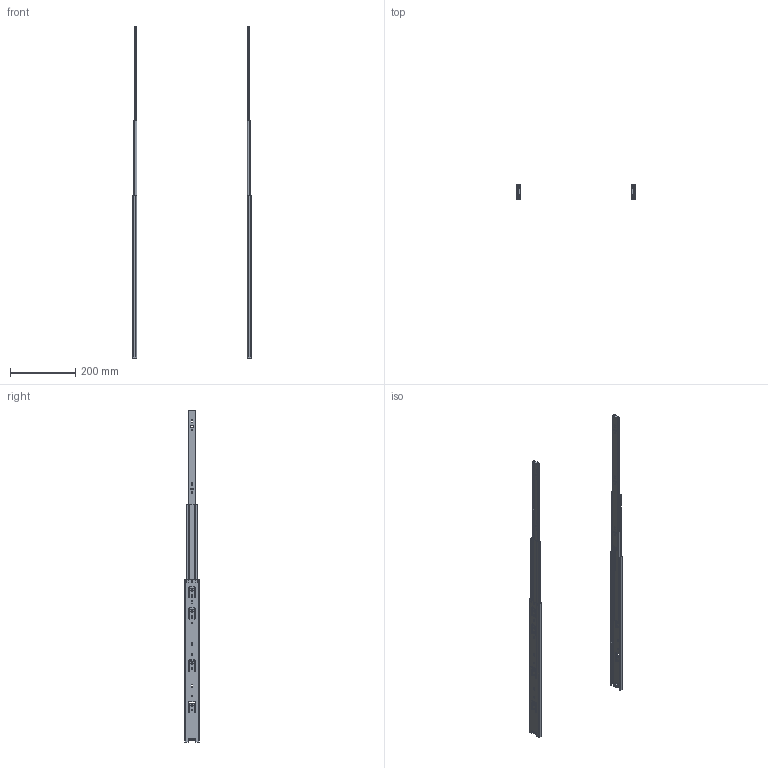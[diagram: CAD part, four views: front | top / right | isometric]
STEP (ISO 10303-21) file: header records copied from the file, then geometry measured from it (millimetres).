
FILE_DESCRIPTION(/* description */ (''),/* implementation_level */ '2;1');
FILE_NAME(/* name */ 'D:\$Workingspace\Designs\Katalog\Cadsoft\GTV Prowadnice\Prowadnice GTV_bryły 3D\PK-0-H45-500_wysunieta.stp',/* time_stamp */ '2016-11-22T11:28:07+01:00',/* author */ ('tomaszw'),/* organization */ (''),/* preprocessor_version */ 'ST-DEVELOPER v16.1',/* originating_system */ 'Autodesk Inventor 2016',/* authorisation */ '');
FILE_SCHEMA (('AUTOMOTIVE_DESIGN { 1 0 10303 214 3 1 1 }'));
Length unit declared in the file: millimetre
Products named in the file (5): Blokada_4; PK-0-H45_1-500; PK-0-H45_2-500; PK-0-H45_3-500; PK-0-H45
Assembly tree (8 placements, depth 2):
  PK-0-H45
    Blokada_4  x2
    PK-0-H45_1-500  x2
    PK-0-H45_2-500  x2
    PK-0-H45_3-500  x2
Bounding box: 364 x 44.5 x 1020 mm (x, y, z)
Volume: 159345.8 mm3; surface area: 312089.5 mm2
Topology: 8 solids, 8 shells, 498 faces, 1438 edges, 956 vertices
Faces by surface type: cylinder 258, plane 236, cone 4
Full cylindrical faces by diameter (mm): 4.5 x12, 5 x6, 6.4 x8
Entity records: 8721 total; most frequent: DIRECTION 1478, CARTESIAN_POINT 1472, ORIENTED_EDGE 1412, EDGE_CURVE 706, AXIS2_PLACEMENT_3D 518, VERTEX_POINT 478, LINE 442, VECTOR 442
